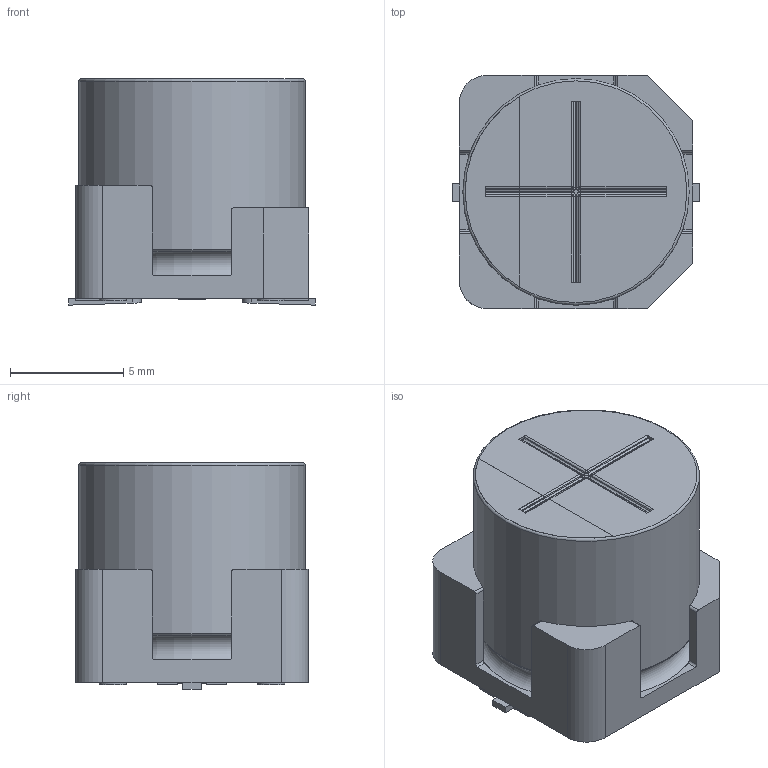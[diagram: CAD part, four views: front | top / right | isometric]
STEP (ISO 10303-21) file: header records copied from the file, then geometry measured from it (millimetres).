
FILE_DESCRIPTION(/* description */ (''),/* implementation_level */ '2;1');
FILE_NAME(/* name */ '10x10_Chip_耐振品.stp',/* time_stamp */ '2018-03-27T19:39:21+09:00',/* author */ (''),/* organization */ (''),/* preprocessor_version */ 'ST-DEVELOPER v16',/* originating_system */ 'SIEMENS PLM Software NX 11.0',/* authorisation */ '');
FILE_SCHEMA (('AUTOMOTIVE_DESIGN { 1 0 10303 214 3 1 1 1 }'));
Length unit declared in the file: millimetre
Products named in the file (1): 10x10_Chip_耐振品_1
Bounding box: 10.9 x 10.3 x 10 mm (x, y, z)
Volume: 842.7 mm3; surface area: 914.3 mm2
Topology: 9 solids, 9 shells, 163 faces, 399 edges, 256 vertices
Faces by surface type: plane 93, cylinder 58, torus 4, sphere 4, bspline 4
Full cylindrical faces by diameter (mm): 1.2 x4, 10 x3
Entity records: 5032 total; most frequent: CARTESIAN_POINT 1056, DIRECTION 798, ORIENTED_EDGE 760, EDGE_CURVE 380, AXIS2_PLACEMENT_3D 274, VERTEX_POINT 252, LINE 250, VECTOR 250
